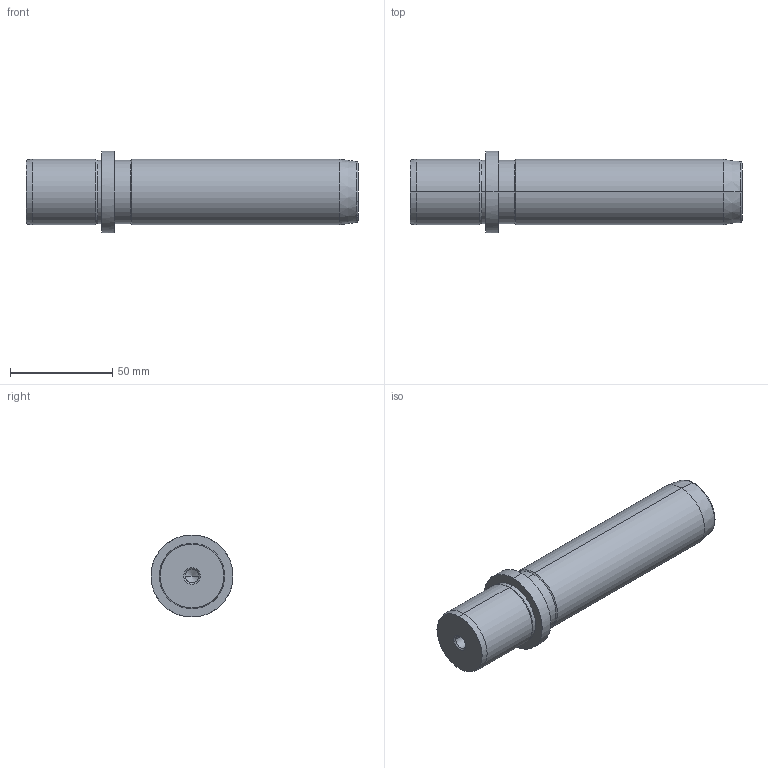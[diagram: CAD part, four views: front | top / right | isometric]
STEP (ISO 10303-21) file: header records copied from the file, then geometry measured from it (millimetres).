
FILE_DESCRIPTION(('CATIA V5 STEP Exchange'),'2;1');
FILE_NAME('C:\Users\Utente\Desktop\IO LAVORO\3D X SITO CF\X SITO\718\718-32x125.stp','2021-01-02T13:09:27+00:00',('none'),('none'),'CATIA Version 5 Release 20 GA (IN-10)','CATIA V5 STEP AP203','none');
FILE_SCHEMA(('CONFIG_CONTROL_DESIGN'));
Length unit declared in the file: millimetre
Products named in the file (1): 718-32x125
Bounding box: 162 x 40 x 40 mm (x, y, z)
Volume: 130119.2 mm3; surface area: 19825.9 mm2
Topology: 1 solids, 1 shells, 36 faces, 100 edges, 66 vertices
Faces by surface type: cone 16, cylinder 14, plane 4, torus 2
Entity records: 1291 total; most frequent: CARTESIAN_POINT 362, ORIENTED_EDGE 192, DIRECTION 157, EDGE_CURVE 96, AXIS2_PLACEMENT_3D 92, VERTEX_POINT 66, CIRCLE 55, EDGE_LOOP 40
